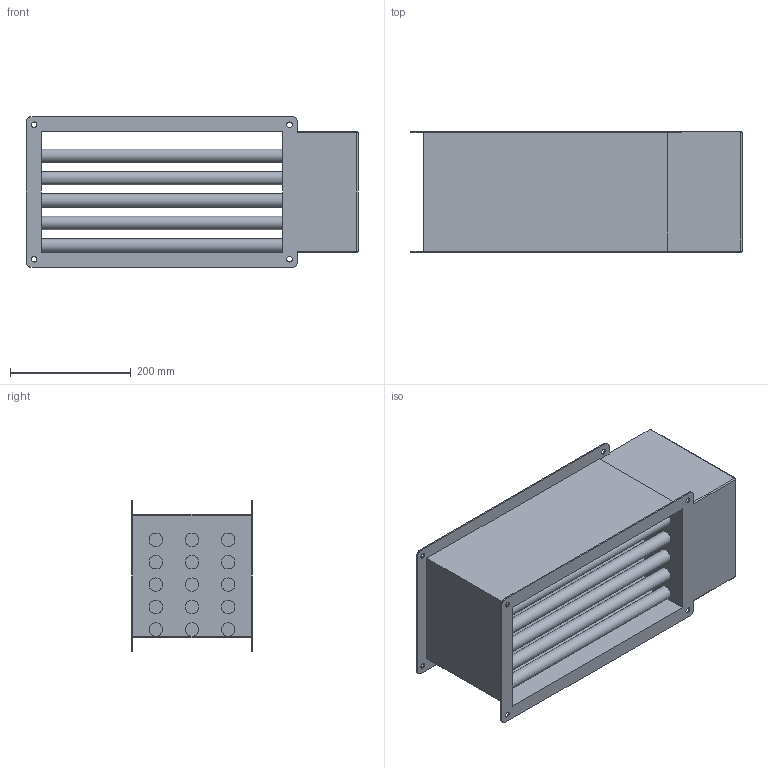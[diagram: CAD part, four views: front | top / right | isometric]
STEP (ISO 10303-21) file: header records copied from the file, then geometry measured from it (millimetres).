
FILE_DESCRIPTION(/* description */ (''),/* implementation_level */ '2;1');
FILE_NAME(/* name */ 'Z:\Output\EHR-K_6-40-20-08702-010.stp',/* time_stamp */ '2017-07-11T10:41:53+02:00',/* author */ ('Engineering1'),/* organization */ (''),/* preprocessor_version */ 'ST-DEVELOPER v16.5',/* originating_system */ 'Autodesk Inventor 2017',/* authorisation */ '');
FILE_SCHEMA (('AUTOMOTIVE_DESIGN { 1 0 10303 214 3 1 1 }'));
Length unit declared in the file: millimetre
Products named in the file (1): EHR-1
Bounding box: 550 x 200 x 250 mm (x, y, z)
Volume: 7846344.5 mm3; surface area: 1095711.5 mm2
Topology: 1 solids, 1 shells, 65 faces, 183 edges, 120 vertices
Faces by surface type: cylinder 37, plane 26, sphere 2
Full cylindrical faces by diameter (mm): 9 x8, 22.3 x15
Entity records: 2118 total; most frequent: DIRECTION 360, CARTESIAN_POINT 338, ORIENTED_EDGE 312, EDGE_CURVE 156, AXIS2_PLACEMENT_3D 138, EDGE_LOOP 136, VERTEX_POINT 116, LINE 84
